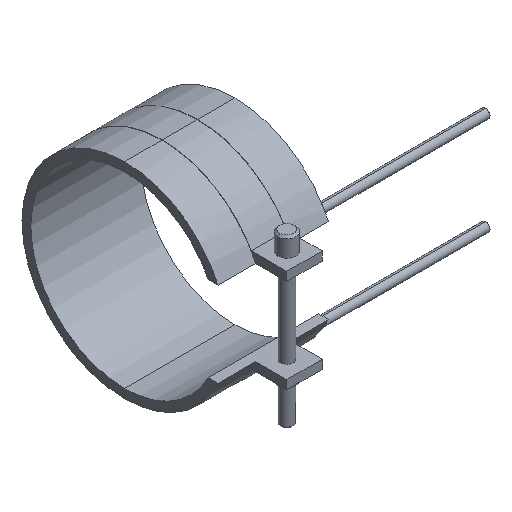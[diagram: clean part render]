
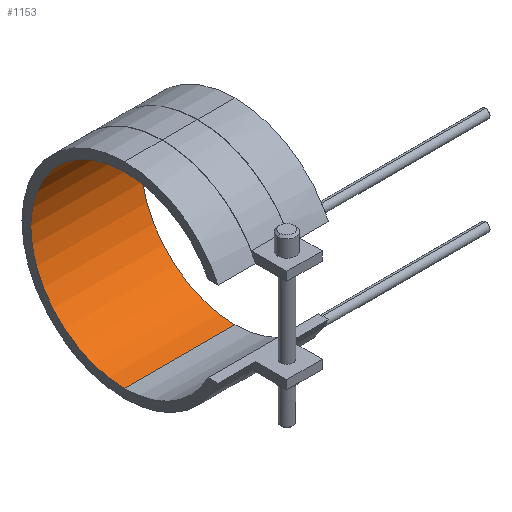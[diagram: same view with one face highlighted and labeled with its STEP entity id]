
A CAD part, isometric view. The second image highlights one B-rep face of the part: STEP entity #1153.
In plain terms, the highlighted cylindrical face has radius 42.5 mm (diameter 85 mm), a partial arc.
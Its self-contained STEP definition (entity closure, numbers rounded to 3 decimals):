
#834=CARTESIAN_POINT('Vertex',(-25.,0.,-42.5)) ;
#841=CARTESIAN_POINT('Vertex',(25.,0.,-42.5)) ;
#844=CARTESIAN_POINT('Line Origine',(25.,0.,-42.5)) ;
#862=CARTESIAN_POINT('Axis2P3D Location',(-25.,0.,0.)) ;
#866=CARTESIAN_POINT('Vertex',(-25.,0.,42.5)) ;
#923=CARTESIAN_POINT('Vertex',(25.,0.,42.5)) ;
#933=CARTESIAN_POINT('Line Origine',(25.,0.,42.5)) ;
#1024=CARTESIAN_POINT('Axis2P3D Location',(25.,0.,0.)) ;
#1142=CARTESIAN_POINT('Axis2P3D Location',(25.,0.,0.)) ;
#845=DIRECTION('Vector Direction',(1.,0.,0.)) ;
#863=DIRECTION('Axis2P3D Direction',(1.,0.,0.)) ;
#934=DIRECTION('Vector Direction',(1.,0.,0.)) ;
#1025=DIRECTION('Axis2P3D Direction',(1.,0.,0.)) ;
#1143=DIRECTION('Axis2P3D Direction',(1.,0.,-0.)) ;
#1144=DIRECTION('Axis2P3D XDirection',(0.,0.,-1.)) ;
#864=AXIS2_PLACEMENT_3D('Circle Axis2P3D',#862,#863,$) ;
#1026=AXIS2_PLACEMENT_3D('Circle Axis2P3D',#1024,#1025,$) ;
#1145=AXIS2_PLACEMENT_3D('Cylinder Axis2P3D',#1142,#1143,#1144) ;
#1148=ORIENTED_EDGE('',*,*,#1028,.T.) ;
#1149=ORIENTED_EDGE('',*,*,#937,.T.) ;
#1150=ORIENTED_EDGE('',*,*,#868,.F.) ;
#1151=ORIENTED_EDGE('',*,*,#848,.T.) ;
#846=VECTOR('Line Direction',#845,1.) ;
#935=VECTOR('Line Direction',#934,1.) ;
#1153=ADVANCED_FACE('14085050',(#1152),#1146,.F.) ;
#865=CIRCLE('generated circle',#864,42.5) ;
#1027=CIRCLE('generated circle',#1026,42.5) ;
#1146=CYLINDRICAL_SURFACE('generated cylinder',#1145,42.5) ;
#848=EDGE_CURVE('',#835,#842,#847,.T.) ;
#868=EDGE_CURVE('',#835,#867,#865,.T.) ;
#937=EDGE_CURVE('',#924,#867,#936,.F.) ;
#1028=EDGE_CURVE('',#842,#924,#1027,.T.) ;
#1147=EDGE_LOOP('',(#1148,#1149,#1150,#1151)) ;
#1152=FACE_OUTER_BOUND('',#1147,.T.) ;
#847=LINE('Line',#844,#846) ;
#936=LINE('Line',#933,#935) ;
#835=VERTEX_POINT('',#834) ;
#842=VERTEX_POINT('',#841) ;
#867=VERTEX_POINT('',#866) ;
#924=VERTEX_POINT('',#923) ;
